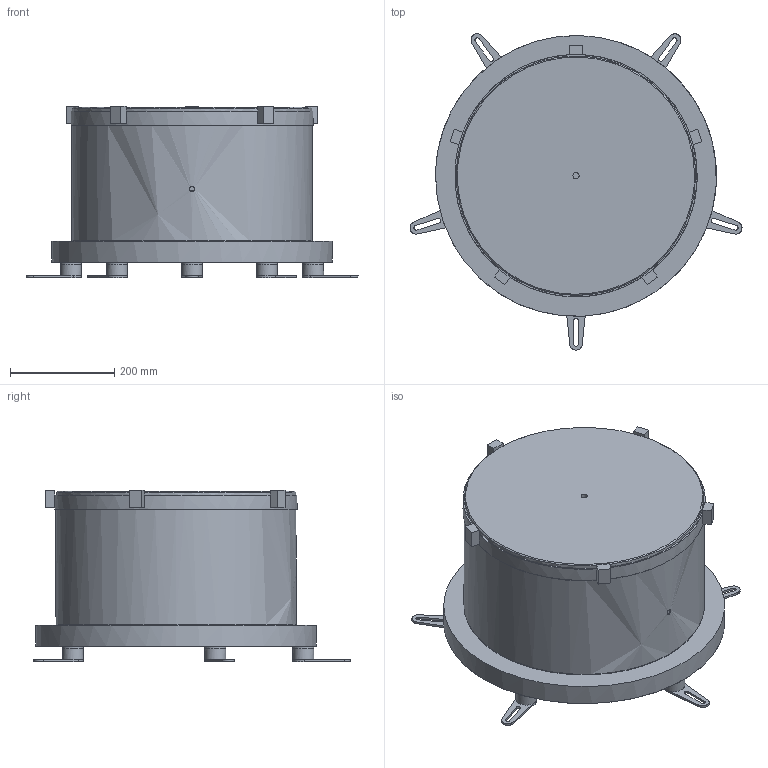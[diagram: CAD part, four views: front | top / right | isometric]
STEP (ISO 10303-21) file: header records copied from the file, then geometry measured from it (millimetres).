
FILE_DESCRIPTION( ('This file contains a STEP AP42 implementation' ,'as created by ZW3D STEP Interface translator.') ,'2;1' );
FILE_NAME( 'HD-TC460-20253D.stp' ,'2512 5.111131', (''), ('ZWCAD Software Co.'), 'Version 1.0', 'ZW3D to STEP translator', '' );
FILE_SCHEMA( ('CONFIG_CONTROL_DESIGN') );
Length unit declared in the file: millimetre
Products named in the file (2): 0; HD-TC460-20253D
Bounding box: 638.17 x 608.1 x 329.5 mm (x, y, z)
Volume: 46417.3 mm3; surface area: 983431.7 mm2
Topology: 4 solids, 22 shells, 110 faces, 251 edges, 169 vertices
Faces by surface type: bspline 110
Entity records: 3422 total; most frequent: CARTESIAN_POINT 1726, ORIENTED_EDGE 469, EDGE_CURVE 251, VERTEX_POINT 169, B_SPLINE_CURVE_WITH_KNOTS 159, EDGE_LOOP 125, FACE_OUTER_BOUND 110, ADVANCED_FACE 110
